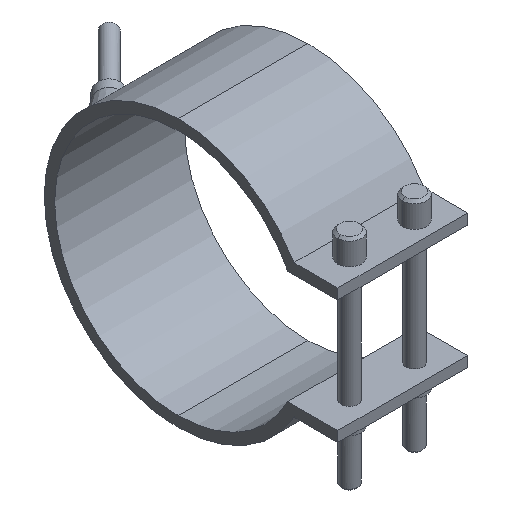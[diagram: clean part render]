
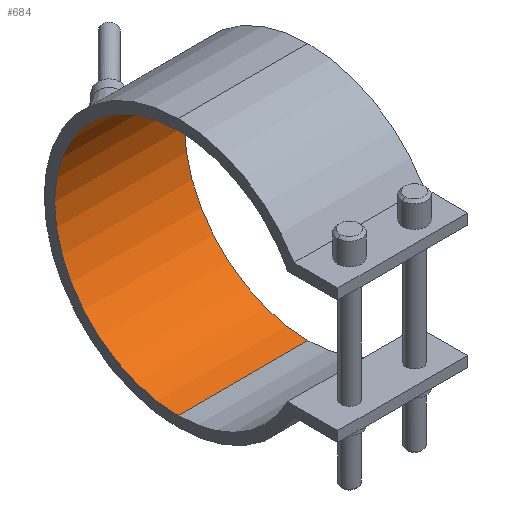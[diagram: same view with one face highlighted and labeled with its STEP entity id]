
A CAD part, isometric view. The second image highlights one B-rep face of the part: STEP entity #684.
In plain terms, the highlighted cylindrical face has radius 47.5 mm (diameter 95 mm), a partial arc.
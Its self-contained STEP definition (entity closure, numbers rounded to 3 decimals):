
#354=CARTESIAN_POINT('Vertex',(25.,0.,47.5)) ;
#359=CARTESIAN_POINT('Axis2P3D Location',(25.,0.,0.)) ;
#363=CARTESIAN_POINT('Vertex',(25.,0.,-47.5)) ;
#470=CARTESIAN_POINT('Vertex',(-25.,0.,-47.5)) ;
#473=CARTESIAN_POINT('Axis2P3D Location',(-25.,0.,0.)) ;
#477=CARTESIAN_POINT('Vertex',(-25.,0.,47.5)) ;
#656=CARTESIAN_POINT('Line Origine',(25.,0.,47.5)) ;
#668=CARTESIAN_POINT('Axis2P3D Location',(25.,0.,0.)) ;
#673=CARTESIAN_POINT('Line Origine',(25.,0.,-47.5)) ;
#360=DIRECTION('Axis2P3D Direction',(1.,0.,0.)) ;
#474=DIRECTION('Axis2P3D Direction',(1.,0.,0.)) ;
#657=DIRECTION('Vector Direction',(1.,0.,0.)) ;
#669=DIRECTION('Axis2P3D Direction',(1.,0.,-0.)) ;
#670=DIRECTION('Axis2P3D XDirection',(0.,0.,-1.)) ;
#674=DIRECTION('Vector Direction',(1.,0.,0.)) ;
#361=AXIS2_PLACEMENT_3D('Circle Axis2P3D',#359,#360,$) ;
#475=AXIS2_PLACEMENT_3D('Circle Axis2P3D',#473,#474,$) ;
#671=AXIS2_PLACEMENT_3D('Cylinder Axis2P3D',#668,#669,#670) ;
#679=ORIENTED_EDGE('',*,*,#365,.T.) ;
#680=ORIENTED_EDGE('',*,*,#660,.T.) ;
#681=ORIENTED_EDGE('',*,*,#479,.F.) ;
#682=ORIENTED_EDGE('',*,*,#677,.T.) ;
#658=VECTOR('Line Direction',#657,1.) ;
#675=VECTOR('Line Direction',#674,1.) ;
#684=ADVANCED_FACE('29095050',(#683),#672,.F.) ;
#362=CIRCLE('generated circle',#361,47.5) ;
#476=CIRCLE('generated circle',#475,47.5) ;
#672=CYLINDRICAL_SURFACE('generated cylinder',#671,47.5) ;
#365=EDGE_CURVE('',#364,#355,#362,.T.) ;
#479=EDGE_CURVE('',#471,#478,#476,.T.) ;
#660=EDGE_CURVE('',#355,#478,#659,.F.) ;
#677=EDGE_CURVE('',#471,#364,#676,.T.) ;
#678=EDGE_LOOP('',(#679,#680,#681,#682)) ;
#683=FACE_OUTER_BOUND('',#678,.T.) ;
#659=LINE('Line',#656,#658) ;
#676=LINE('Line',#673,#675) ;
#355=VERTEX_POINT('',#354) ;
#364=VERTEX_POINT('',#363) ;
#471=VERTEX_POINT('',#470) ;
#478=VERTEX_POINT('',#477) ;
